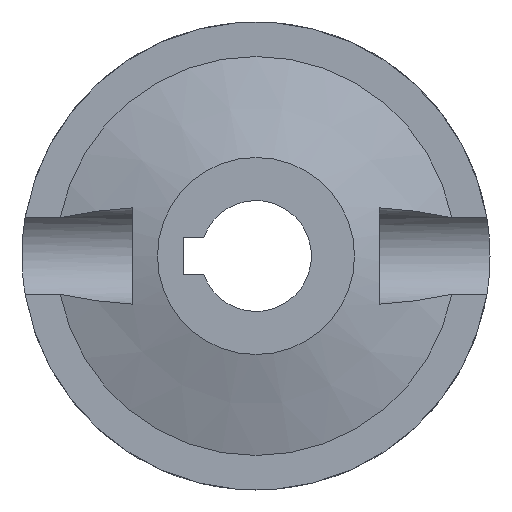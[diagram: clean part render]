
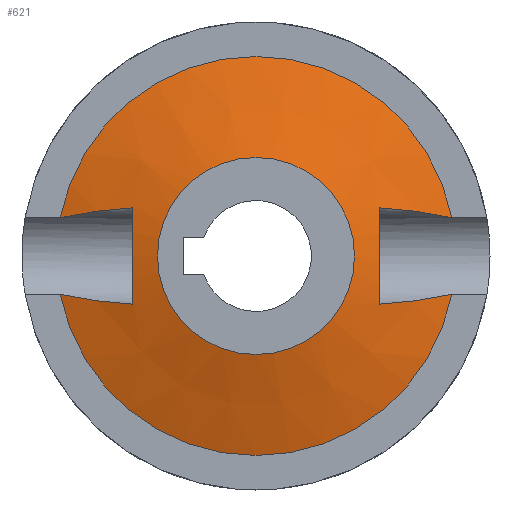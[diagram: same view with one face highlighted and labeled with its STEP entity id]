
A CAD part, front view. The second image highlights one B-rep face of the part: STEP entity #621.
In plain terms, the highlighted conical face has half-angle 73.045 degrees and reference radius 17.02 mm.
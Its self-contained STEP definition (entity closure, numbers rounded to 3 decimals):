
#621 = ADVANCED_FACE( '', ( #1289, #1290 ), #1291, .T. );
#1289 = FACE_OUTER_BOUND( '', #2112, .T. );
#1290 = FACE_BOUND( '', #2113, .T. );
#1291 = CONICAL_SURFACE( '', #2114, 17.02, 1.275 );
#2112 = EDGE_LOOP( '', ( #3482, #3483, #3484, #3485, #3486, #3487, #3488, #3489 ) );
#2113 = EDGE_LOOP( '', ( #3490 ) );
#2114 = AXIS2_PLACEMENT_3D( '', #3491, #3492, #3493 );
#3482 = ORIENTED_EDGE( '', *, *, #3888, .T. );
#3483 = ORIENTED_EDGE( '', *, *, #3936, .T. );
#3484 = ORIENTED_EDGE( '', *, *, #3892, .T. );
#3485 = ORIENTED_EDGE( '', *, *, #4133, .T. );
#3486 = ORIENTED_EDGE( '', *, *, #4156, .F. );
#3487 = ORIENTED_EDGE( '', *, *, #4043, .F. );
#3488 = ORIENTED_EDGE( '', *, *, #4157, .F. );
#3489 = ORIENTED_EDGE( '', *, *, #3941, .T. );
#3490 = ORIENTED_EDGE( '', *, *, #4158, .T. );
#3491 = CARTESIAN_POINT( '', ( 0., 0.25, 0. ) );
#3492 = DIRECTION( '', ( 0., 1., 0. ) );
#3493 = DIRECTION( '', ( -1., 0., 0. ) );
#3888 = EDGE_CURVE( '', #4614, #4612, #4615, .T. );
#3892 = EDGE_CURVE( '', #4611, #4620, #4622, .T. );
#3936 = EDGE_CURVE( '', #4612, #4611, #4685, .T. );
#3941 = EDGE_CURVE( '', #4689, #4614, #4692, .F. );
#4043 = EDGE_CURVE( '', #4822, #4823, #4824, .T. );
#4133 = EDGE_CURVE( '', #4620, #4927, #4929, .F. );
#4156 = EDGE_CURVE( '', #4823, #4927, #4955, .T. );
#4157 = EDGE_CURVE( '', #4689, #4822, #4956, .T. );
#4158 = EDGE_CURVE( '', #4957, #4957, #4958, .T. );
#4611 = VERTEX_POINT( '', #5635 );
#4612 = VERTEX_POINT( '', #5636 );
#4614 = VERTEX_POINT( '', #5638 );
#4615 = B_SPLINE_CURVE_WITH_KNOTS( '', 3, ( #5639, #5640, #5641, #5642, #5643, #5644 ), .UNSPECIFIED., .F., .F., ( 4, 2, 4 ), ( 0., 0.003, 0.006 ), .UNSPECIFIED. );
#4620 = VERTEX_POINT( '', #5667 );
#4622 = B_SPLINE_CURVE_WITH_KNOTS( '', 3, ( #5670, #5671, #5672, #5673, #5674, #5675 ), .UNSPECIFIED., .F., .F., ( 4, 2, 4 ), ( 0., 0.003, 0.006 ), .UNSPECIFIED. );
#4685 = B_SPLINE_CURVE_WITH_KNOTS( '', 3, ( #5760, #5761, #5762, #5763, #5764, #5765 ), .UNSPECIFIED., .F., .F., ( 4, 2, 4 ), ( -0.004, 0., 0.004 ), .UNSPECIFIED. );
#4689 = VERTEX_POINT( '', #5769 );
#4692 = CIRCLE( '', #5773, 16.2 );
#4822 = VERTEX_POINT( '', #5957 );
#4823 = VERTEX_POINT( '', #5958 );
#4824 = B_SPLINE_CURVE_WITH_KNOTS( '', 3, ( #5959, #5960, #5961, #5962, #5963, #5964 ), .UNSPECIFIED., .F., .F., ( 4, 2, 4 ), ( -0.004, 0., 0.004 ), .UNSPECIFIED. );
#4927 = VERTEX_POINT( '', #6098 );
#4929 = CIRCLE( '', #6101, 16.2 );
#4955 = B_SPLINE_CURVE_WITH_KNOTS( '', 3, ( #6130, #6131, #6132, #6133, #6134, #6135 ), .UNSPECIFIED., .F., .F., ( 4, 2, 4 ), ( 0., 0.003, 0.006 ), .UNSPECIFIED. );
#4956 = B_SPLINE_CURVE_WITH_KNOTS( '', 3, ( #6136, #6137, #6138, #6139, #6140, #6141 ), .UNSPECIFIED., .F., .F., ( 4, 2, 4 ), ( 0., 0.003, 0.006 ), .UNSPECIFIED. );
#4957 = VERTEX_POINT( '', #6142 );
#4958 = CIRCLE( '', #6143, 8. );
#5635 = CARTESIAN_POINT( '', ( 10., -1.665, 3.91 ) );
#5636 = CARTESIAN_POINT( '', ( 10., -1.665, -3.91 ) );
#5638 = CARTESIAN_POINT( '', ( 15.897, 0., -3.116 ) );
#5639 = CARTESIAN_POINT( '', ( 15.897, 0., -3.116 ) );
#5640 = CARTESIAN_POINT( '', ( 14.927, -0.277, -3.34 ) );
#5641 = CARTESIAN_POINT( '', ( 13.948, -0.556, -3.505 ) );
#5642 = CARTESIAN_POINT( '', ( 11.982, -1.112, -3.761 ) );
#5643 = CARTESIAN_POINT( '', ( 10.993, -1.39, -3.851 ) );
#5644 = CARTESIAN_POINT( '', ( 10., -1.665, -3.91 ) );
#5667 = CARTESIAN_POINT( '', ( 15.897, 0., 3.116 ) );
#5670 = CARTESIAN_POINT( '', ( 10., -1.665, 3.91 ) );
#5671 = CARTESIAN_POINT( '', ( 10.993, -1.39, 3.851 ) );
#5672 = CARTESIAN_POINT( '', ( 11.982, -1.112, 3.761 ) );
#5673 = CARTESIAN_POINT( '', ( 13.948, -0.556, 3.505 ) );
#5674 = CARTESIAN_POINT( '', ( 14.927, -0.277, 3.34 ) );
#5675 = CARTESIAN_POINT( '', ( 15.897, 0., 3.116 ) );
#5760 = CARTESIAN_POINT( '', ( 10., -1.665, -3.91 ) );
#5761 = CARTESIAN_POINT( '', ( 10., -1.81, -2.611 ) );
#5762 = CARTESIAN_POINT( '', ( 10., -1.89, -1.308 ) );
#5763 = CARTESIAN_POINT( '', ( 10., -1.89, 1.308 ) );
#5764 = CARTESIAN_POINT( '', ( 10., -1.81, 2.611 ) );
#5765 = CARTESIAN_POINT( '', ( 10., -1.665, 3.91 ) );
#5769 = CARTESIAN_POINT( '', ( -15.897, 0., -3.116 ) );
#5773 = AXIS2_PLACEMENT_3D( '', #6580, #6581, #6582 );
#5957 = CARTESIAN_POINT( '', ( -10., -1.665, -3.91 ) );
#5958 = CARTESIAN_POINT( '', ( -10., -1.665, 3.91 ) );
#5959 = CARTESIAN_POINT( '', ( -10., -1.665, -3.91 ) );
#5960 = CARTESIAN_POINT( '', ( -10., -1.81, -2.611 ) );
#5961 = CARTESIAN_POINT( '', ( -10., -1.89, -1.308 ) );
#5962 = CARTESIAN_POINT( '', ( -10., -1.89, 1.308 ) );
#5963 = CARTESIAN_POINT( '', ( -10., -1.81, 2.611 ) );
#5964 = CARTESIAN_POINT( '', ( -10., -1.665, 3.91 ) );
#6098 = CARTESIAN_POINT( '', ( -15.897, 0., 3.116 ) );
#6101 = AXIS2_PLACEMENT_3D( '', #6808, #6809, #6810 );
#6130 = CARTESIAN_POINT( '', ( -10., -1.665, 3.91 ) );
#6131 = CARTESIAN_POINT( '', ( -10.993, -1.39, 3.851 ) );
#6132 = CARTESIAN_POINT( '', ( -11.982, -1.112, 3.761 ) );
#6133 = CARTESIAN_POINT( '', ( -13.948, -0.556, 3.505 ) );
#6134 = CARTESIAN_POINT( '', ( -14.927, -0.277, 3.34 ) );
#6135 = CARTESIAN_POINT( '', ( -15.897, 0., 3.116 ) );
#6136 = CARTESIAN_POINT( '', ( -15.897, 0., -3.116 ) );
#6137 = CARTESIAN_POINT( '', ( -14.927, -0.277, -3.34 ) );
#6138 = CARTESIAN_POINT( '', ( -13.948, -0.556, -3.505 ) );
#6139 = CARTESIAN_POINT( '', ( -11.982, -1.112, -3.761 ) );
#6140 = CARTESIAN_POINT( '', ( -10.993, -1.39, -3.851 ) );
#6141 = CARTESIAN_POINT( '', ( -10., -1.665, -3.91 ) );
#6142 = CARTESIAN_POINT( '', ( -8., -2.5, 0. ) );
#6143 = AXIS2_PLACEMENT_3D( '', #6826, #6827, #6828 );
#6580 = CARTESIAN_POINT( '', ( 0., 0., 0. ) );
#6581 = DIRECTION( '', ( 0., 1., 0. ) );
#6582 = DIRECTION( '', ( -1., 0., 0. ) );
#6808 = CARTESIAN_POINT( '', ( 0., 0., 0. ) );
#6809 = DIRECTION( '', ( 0., 1., 0. ) );
#6810 = DIRECTION( '', ( -1., 0., 0. ) );
#6826 = CARTESIAN_POINT( '', ( 0., -2.5, 0. ) );
#6827 = DIRECTION( '', ( 0., 1., 0. ) );
#6828 = DIRECTION( '', ( -1., 0., 0. ) );
